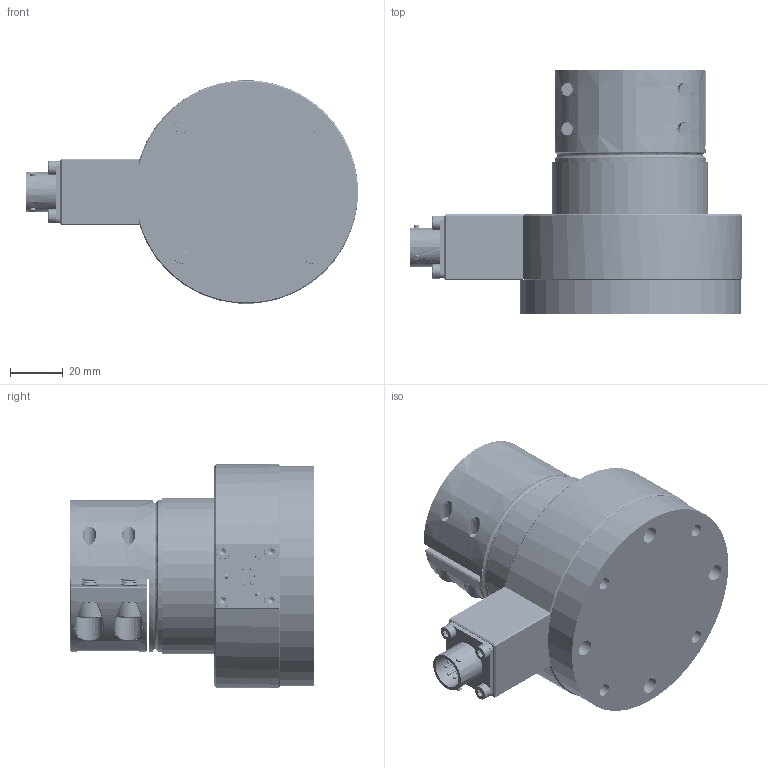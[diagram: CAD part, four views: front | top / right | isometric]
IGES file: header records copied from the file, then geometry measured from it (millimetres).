
Start section: SolidWorks IGES file using analytic representation for surfaces
Global section: file name: C:\Users\daniele.peli\Desktop\TR-N5C-P30-1\cat\TR-N5C-P30-1.IGS; native system: SolidWorks 2018; preprocessor: SolidWorks 2018; author: daniele.peli; date: 180613.122045; units: millimetre
Bounding box: 126.22 x 93 x 84.82 mm (x, y, z)
Surface area: 92458.5 mm2 (no closed solid volume)
Topology: 0 solids, 0 shells, 3463 faces, 26407 edges, 26355 vertices
Faces by surface type: revolution 2836, bspline 627
